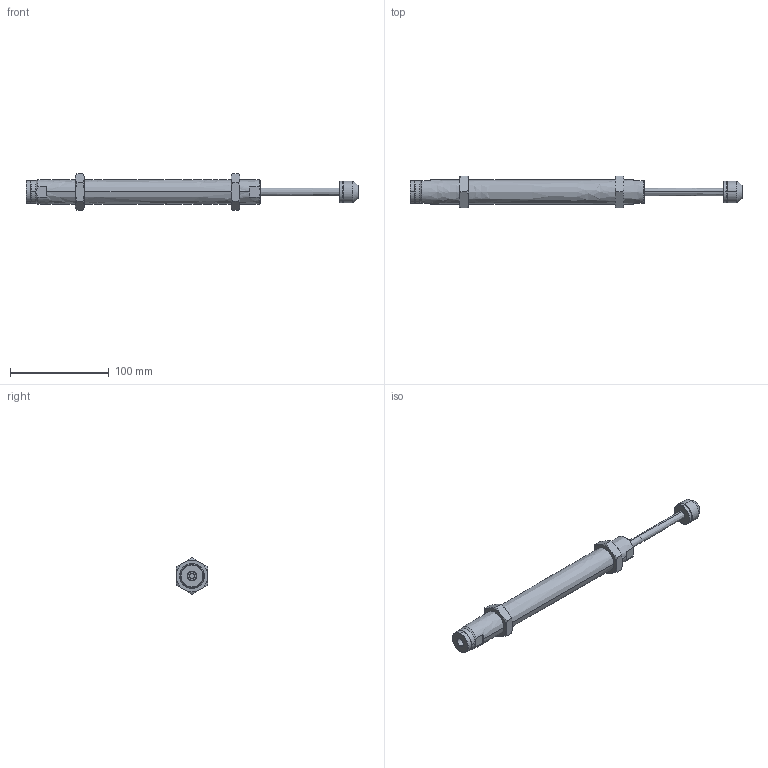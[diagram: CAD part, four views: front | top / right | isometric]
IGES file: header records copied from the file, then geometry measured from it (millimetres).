
Start section: SolidWorks IGES file using analytic representation for surfaces
Global section: file name: D:\IGS跡宒\AC2580QY-SH.IGS,1; native system: 5HSolidWorks 2013; preprocessor: SolidWorks 2013; author: Administrator; date: 160406.152431; units: inch
Bounding box: 335.7 x 32 x 36.95 mm (x, y, z)
Surface area: 28825.3 mm2 (no closed solid volume)
Topology: 0 solids, 0 shells, 105 faces, 1632 edges, 1632 vertices
Faces by surface type: revolution 72, bspline 33
